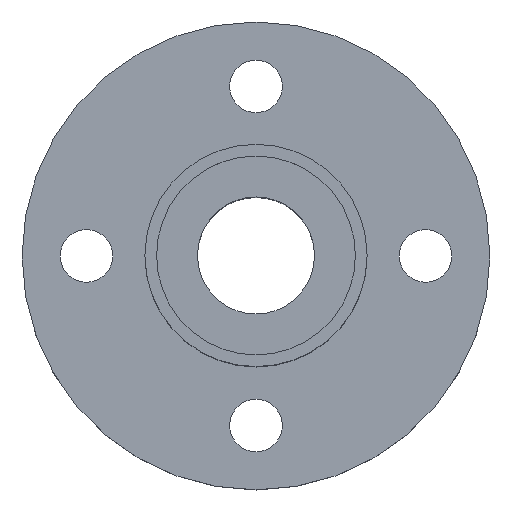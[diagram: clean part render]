
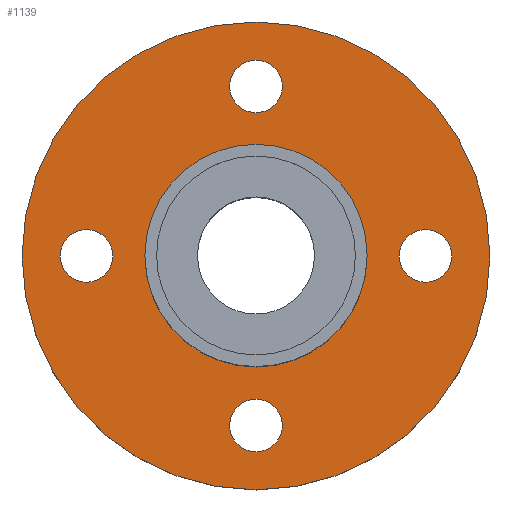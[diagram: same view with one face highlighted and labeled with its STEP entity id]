
A CAD part, top view. The second image highlights one B-rep face of the part: STEP entity #1139.
In plain terms, the highlighted planar face has unit normal (0, 0, 1).
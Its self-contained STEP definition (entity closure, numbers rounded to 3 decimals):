
#51=CARTESIAN_POINT('',(-20.0,-0.1,6.));
#52=VERTEX_POINT('',#51);
#68=CARTESIAN_POINT('',(20.0,-0.1,6.));
#69=VERTEX_POINT('',#68);
#76=CARTESIAN_POINT('',(0.0,-0.1,6.));
#77=DIRECTION('',(0.0,0.0,-1.0));
#78=DIRECTION('',(-1.0,0.0,0.0));
#79=AXIS2_PLACEMENT_3D('',#76,#77,#78);
#80=CIRCLE('',#79,20.0);
#81=EDGE_CURVE('',#69,#52,#80,.T.);
#133=CARTESIAN_POINT('',(-9.5,-0.1,6.0));
#134=VERTEX_POINT('',#133);
#143=CARTESIAN_POINT('',(9.5,-0.1,6.));
#144=VERTEX_POINT('',#143);
#145=CARTESIAN_POINT('',(0.0,-0.1,6.));
#146=DIRECTION('',(0.0,0.0,-1.0));
#147=DIRECTION('',(-1.0,0.0,0.0));
#148=AXIS2_PLACEMENT_3D('',#145,#146,#147);
#149=CIRCLE('',#148,9.5);
#150=EDGE_CURVE('',#144,#134,#149,.T.);
#345=CARTESIAN_POINT('',(0.0,12.15,6.));
#346=VERTEX_POINT('',#345);
#362=CARTESIAN_POINT('',(0.,16.65,6.));
#363=VERTEX_POINT('',#362);
#370=CARTESIAN_POINT('',(0.0,14.4,6.));
#371=DIRECTION('',(0.0,0.0,-1.0));
#372=DIRECTION('',(0.0,-1.0,0.0));
#373=AXIS2_PLACEMENT_3D('',#370,#371,#372);
#374=CIRCLE('',#373,2.25);
#375=EDGE_CURVE('',#346,#363,#374,.T.);
#429=CARTESIAN_POINT('',(-12.25,-0.1,6.));
#430=VERTEX_POINT('',#429);
#446=CARTESIAN_POINT('',(-16.75,-0.1,6.));
#447=VERTEX_POINT('',#446);
#454=CARTESIAN_POINT('',(-14.5,-0.1,6.));
#455=DIRECTION('',(0.0,0.0,-1.0));
#456=DIRECTION('',(1.0,0.0,0.0));
#457=AXIS2_PLACEMENT_3D('',#454,#455,#456);
#458=CIRCLE('',#457,2.25);
#459=EDGE_CURVE('',#430,#447,#458,.T.);
#513=CARTESIAN_POINT('',(0.,-12.35,6.));
#514=VERTEX_POINT('',#513);
#530=CARTESIAN_POINT('',(0.,-16.85,6.));
#531=VERTEX_POINT('',#530);
#538=CARTESIAN_POINT('',(0.,-14.6,6.));
#539=DIRECTION('',(0.0,0.0,-1.0));
#540=DIRECTION('',(0.0,1.0,0.0));
#541=AXIS2_PLACEMENT_3D('',#538,#539,#540);
#542=CIRCLE('',#541,2.25);
#543=EDGE_CURVE('',#514,#531,#542,.T.);
#597=CARTESIAN_POINT('',(12.25,-0.1,6.));
#598=VERTEX_POINT('',#597);
#614=CARTESIAN_POINT('',(16.75,-0.1,6.));
#615=VERTEX_POINT('',#614);
#622=CARTESIAN_POINT('',(14.5,-0.1,6.));
#623=DIRECTION('',(0.0,0.0,-1.0));
#624=DIRECTION('',(-1.0,0.0,0.0));
#625=AXIS2_PLACEMENT_3D('',#622,#623,#624);
#626=CIRCLE('',#625,2.25);
#627=EDGE_CURVE('',#598,#615,#626,.T.);
#638=CARTESIAN_POINT('',(14.5,-0.1,6.));
#639=DIRECTION('',(0.0,0.0,-1.0));
#640=DIRECTION('',(-1.0,0.0,0.0));
#641=AXIS2_PLACEMENT_3D('',#638,#639,#640);
#642=CIRCLE('',#641,2.25);
#643=EDGE_CURVE('',#615,#598,#642,.T.);
#700=CARTESIAN_POINT('',(0.,-14.6,6.));
#701=DIRECTION('',(0.0,0.0,-1.0));
#702=DIRECTION('',(0.0,1.0,0.0));
#703=AXIS2_PLACEMENT_3D('',#700,#701,#702);
#704=CIRCLE('',#703,2.25);
#705=EDGE_CURVE('',#531,#514,#704,.T.);
#762=CARTESIAN_POINT('',(-14.5,-0.1,6.));
#763=DIRECTION('',(0.0,0.0,-1.0));
#764=DIRECTION('',(1.0,0.0,0.0));
#765=AXIS2_PLACEMENT_3D('',#762,#763,#764);
#766=CIRCLE('',#765,2.25);
#767=EDGE_CURVE('',#447,#430,#766,.T.);
#824=CARTESIAN_POINT('',(0.0,14.4,6.));
#825=DIRECTION('',(0.0,0.0,-1.0));
#826=DIRECTION('',(0.0,-1.0,0.0));
#827=AXIS2_PLACEMENT_3D('',#824,#825,#826);
#828=CIRCLE('',#827,2.25);
#829=EDGE_CURVE('',#363,#346,#828,.T.);
#1056=CARTESIAN_POINT('',(0.0,-0.1,6.));
#1057=DIRECTION('',(0.0,0.0,-1.0));
#1058=DIRECTION('',(-1.0,0.0,0.0));
#1059=AXIS2_PLACEMENT_3D('',#1056,#1057,#1058);
#1060=CIRCLE('',#1059,9.5);
#1061=EDGE_CURVE('',#134,#144,#1060,.T.);
#1098=CARTESIAN_POINT('',(0.0,-0.1,6.));
#1099=DIRECTION('',(0.0,0.0,-1.0));
#1100=DIRECTION('',(-1.0,0.0,0.0));
#1101=AXIS2_PLACEMENT_3D('',#1098,#1099,#1100);
#1102=CIRCLE('',#1101,20.0);
#1103=EDGE_CURVE('',#52,#69,#1102,.T.);
#1110=CARTESIAN_POINT('',(0.0,-0.1,6.));
#1111=DIRECTION('',(0.0,0.0,-1.0));
#1112=DIRECTION('',(-1.0,0.0,0.0));
#1113=AXIS2_PLACEMENT_3D('',#1110,#1111,#1112);
#1114=PLANE('',#1113);
#1115=ORIENTED_EDGE('',*,*,#81,.F.);
#1116=ORIENTED_EDGE('',*,*,#1103,.F.);
#1117=EDGE_LOOP('',(#1115,#1116));
#1118=FACE_OUTER_BOUND('',#1117,.T.);
#1119=ORIENTED_EDGE('',*,*,#627,.T.);
#1120=ORIENTED_EDGE('',*,*,#643,.T.);
#1121=EDGE_LOOP('',(#1119,#1120));
#1122=FACE_BOUND('',#1121,.T.);
#1123=ORIENTED_EDGE('',*,*,#543,.T.);
#1124=ORIENTED_EDGE('',*,*,#705,.T.);
#1125=EDGE_LOOP('',(#1123,#1124));
#1126=FACE_BOUND('',#1125,.T.);
#1127=ORIENTED_EDGE('',*,*,#459,.T.);
#1128=ORIENTED_EDGE('',*,*,#767,.T.);
#1129=EDGE_LOOP('',(#1127,#1128));
#1130=FACE_BOUND('',#1129,.T.);
#1131=ORIENTED_EDGE('',*,*,#375,.T.);
#1132=ORIENTED_EDGE('',*,*,#829,.T.);
#1133=EDGE_LOOP('',(#1131,#1132));
#1134=FACE_BOUND('',#1133,.T.);
#1135=ORIENTED_EDGE('',*,*,#150,.T.);
#1136=ORIENTED_EDGE('',*,*,#1061,.T.);
#1137=EDGE_LOOP('',(#1135,#1136));
#1138=FACE_BOUND('',#1137,.T.);
#1139=ADVANCED_FACE('',(#1118,#1122,#1126,#1130,#1134,#1138),#1114,.F.);
